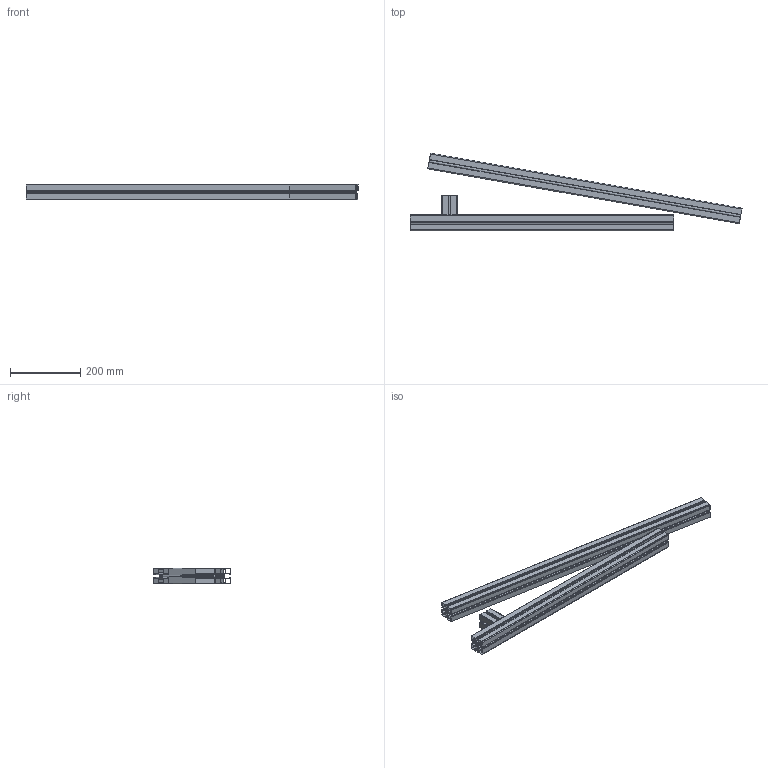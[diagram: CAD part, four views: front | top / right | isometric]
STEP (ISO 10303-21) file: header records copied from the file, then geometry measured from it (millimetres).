
FILE_DESCRIPTION (( 'STEP AP203' ), '1' );
FILE_NAME ('084.106.305.STEP', '2013-01-24T07:38:18', ( 'Alusic' ), ( 'Alusic' ), 'SwSTEP 2.0', 'SolidWorks 2011', '' );
FILE_SCHEMA (( 'CONFIG_CONTROL_DESIGN' ));
Length unit declared in the file: millimetre
Products named in the file (1): 084.106.305
Bounding box: 944.81 x 220.72 x 45 mm (x, y, z)
Volume: 728407.9 mm3; surface area: 1048526.2 mm2
Topology: 3 solids, 3 shells, 443 faces, 1302 edges, 864 vertices
Faces by surface type: plane 241, cylinder 202
Entity records: 14962 total; most frequent: CARTESIAN_POINT 2749, ORIENTED_EDGE 2604, DIRECTION 2532, EDGE_CURVE 1302, LINE 902, VECTOR 902, VERTEX_POINT 864, AXIS2_PLACEMENT_3D 815
